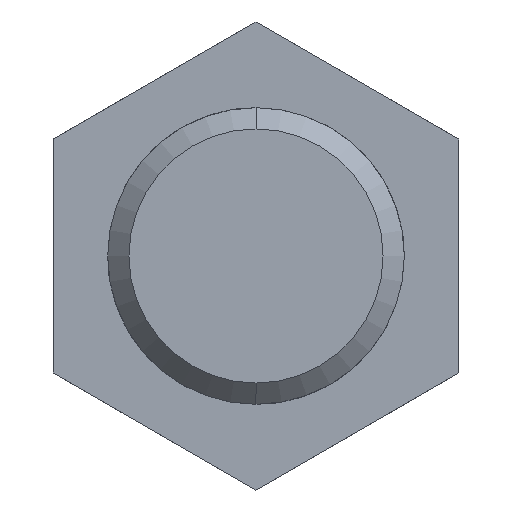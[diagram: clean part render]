
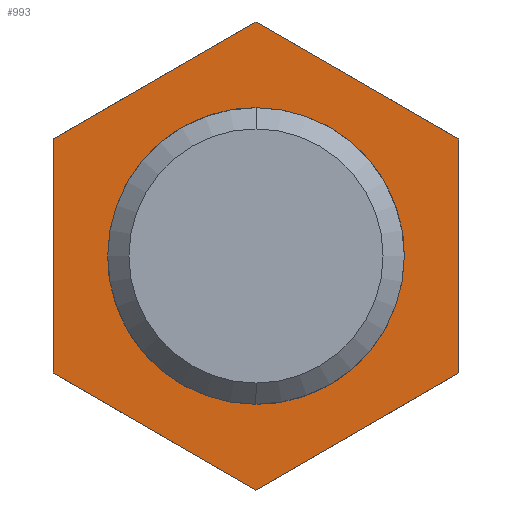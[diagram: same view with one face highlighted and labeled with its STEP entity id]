
A CAD part, front view. The second image highlights one B-rep face of the part: STEP entity #993.
In plain terms, the highlighted planar face has unit normal (0, -1, 0).
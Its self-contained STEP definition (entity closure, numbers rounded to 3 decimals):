
#809=CARTESIAN_POINT('Vertex',(20.5,0.,11.836)) ;
#816=CARTESIAN_POINT('Vertex',(0.,0.,23.671)) ;
#819=CARTESIAN_POINT('Line Origine',(10.25,0.,17.754)) ;
#840=CARTESIAN_POINT('Vertex',(20.5,0.,-11.836)) ;
#843=CARTESIAN_POINT('Line Origine',(20.5,0.,0.)) ;
#865=CARTESIAN_POINT('Vertex',(0.,0.,-23.671)) ;
#868=CARTESIAN_POINT('Line Origine',(10.25,0.,-17.754)) ;
#889=CARTESIAN_POINT('Vertex',(-20.5,0.,-11.836)) ;
#892=CARTESIAN_POINT('Line Origine',(-10.25,0.,-17.754)) ;
#913=CARTESIAN_POINT('Vertex',(-20.5,0.,11.836)) ;
#916=CARTESIAN_POINT('Line Origine',(-20.5,0.,0.)) ;
#934=CARTESIAN_POINT('Line Origine',(-10.25,0.,17.754)) ;
#946=CARTESIAN_POINT('Axis2P3D Location',(0.,0.,0.)) ;
#959=CARTESIAN_POINT('Axis2P3D Location',(0.,0.,0.)) ;
#963=CARTESIAN_POINT('Vertex',(0.,0.,-14.5)) ;
#965=CARTESIAN_POINT('Vertex',(14.5,0.,0.)) ;
#968=CARTESIAN_POINT('Axis2P3D Location',(0.,0.,0.)) ;
#972=CARTESIAN_POINT('Vertex',(-14.5,0.,0.)) ;
#975=CARTESIAN_POINT('Axis2P3D Location',(0.,0.,0.)) ;
#979=CARTESIAN_POINT('Vertex',(0.,0.,14.5)) ;
#982=CARTESIAN_POINT('Axis2P3D Location',(0.,0.,0.)) ;
#820=DIRECTION('Vector Direction',(0.866,0.,-0.5)) ;
#844=DIRECTION('Vector Direction',(0.,0.,-1.)) ;
#869=DIRECTION('Vector Direction',(-0.866,0.,-0.5)) ;
#893=DIRECTION('Vector Direction',(-0.866,0.,0.5)) ;
#917=DIRECTION('Vector Direction',(0.,0.,1.)) ;
#935=DIRECTION('Vector Direction',(0.866,0.,0.5)) ;
#947=DIRECTION('Axis2P3D Direction',(0.,1.,0.)) ;
#948=DIRECTION('Axis2P3D XDirection',(0.,-0.,1.)) ;
#960=DIRECTION('Axis2P3D Direction',(0.,1.,0.)) ;
#969=DIRECTION('Axis2P3D Direction',(0.,1.,0.)) ;
#976=DIRECTION('Axis2P3D Direction',(0.,1.,0.)) ;
#983=DIRECTION('Axis2P3D Direction',(0.,1.,0.)) ;
#949=AXIS2_PLACEMENT_3D('Plane Axis2P3D',#946,#947,#948) ;
#961=AXIS2_PLACEMENT_3D('Circle Axis2P3D',#959,#960,$) ;
#970=AXIS2_PLACEMENT_3D('Circle Axis2P3D',#968,#969,$) ;
#977=AXIS2_PLACEMENT_3D('Circle Axis2P3D',#975,#976,$) ;
#984=AXIS2_PLACEMENT_3D('Circle Axis2P3D',#982,#983,$) ;
#952=ORIENTED_EDGE('',*,*,#920,.F.) ;
#953=ORIENTED_EDGE('',*,*,#896,.F.) ;
#954=ORIENTED_EDGE('',*,*,#872,.F.) ;
#955=ORIENTED_EDGE('',*,*,#847,.F.) ;
#956=ORIENTED_EDGE('',*,*,#823,.F.) ;
#957=ORIENTED_EDGE('',*,*,#938,.F.) ;
#988=ORIENTED_EDGE('',*,*,#967,.F.) ;
#989=ORIENTED_EDGE('',*,*,#974,.F.) ;
#990=ORIENTED_EDGE('',*,*,#981,.F.) ;
#991=ORIENTED_EDGE('',*,*,#986,.F.) ;
#992=FACE_BOUND('',#987,.T.) ;
#821=VECTOR('Line Direction',#820,1.) ;
#845=VECTOR('Line Direction',#844,1.) ;
#870=VECTOR('Line Direction',#869,1.) ;
#894=VECTOR('Line Direction',#893,1.) ;
#918=VECTOR('Line Direction',#917,1.) ;
#936=VECTOR('Line Direction',#935,1.) ;
#993=ADVANCED_FACE('395P-02-032-030',(#958,#992),#950,.F.) ;
#962=CIRCLE('generated circle',#961,14.5) ;
#971=CIRCLE('generated circle',#970,14.5) ;
#978=CIRCLE('generated circle',#977,14.5) ;
#985=CIRCLE('generated circle',#984,14.5) ;
#823=EDGE_CURVE('',#817,#810,#822,.T.) ;
#847=EDGE_CURVE('',#810,#841,#846,.T.) ;
#872=EDGE_CURVE('',#841,#866,#871,.T.) ;
#896=EDGE_CURVE('',#866,#890,#895,.T.) ;
#920=EDGE_CURVE('',#890,#914,#919,.T.) ;
#938=EDGE_CURVE('',#914,#817,#937,.T.) ;
#967=EDGE_CURVE('',#964,#966,#962,.F.) ;
#974=EDGE_CURVE('',#973,#964,#971,.F.) ;
#981=EDGE_CURVE('',#980,#973,#978,.F.) ;
#986=EDGE_CURVE('',#966,#980,#985,.F.) ;
#951=EDGE_LOOP('',(#952,#953,#954,#955,#956,#957)) ;
#987=EDGE_LOOP('',(#988,#989,#990,#991)) ;
#958=FACE_OUTER_BOUND('',#951,.T.) ;
#822=LINE('Line',#819,#821) ;
#846=LINE('Line',#843,#845) ;
#871=LINE('Line',#868,#870) ;
#895=LINE('Line',#892,#894) ;
#919=LINE('Line',#916,#918) ;
#937=LINE('Line',#934,#936) ;
#950=PLANE('Plane',#949) ;
#810=VERTEX_POINT('',#809) ;
#817=VERTEX_POINT('',#816) ;
#841=VERTEX_POINT('',#840) ;
#866=VERTEX_POINT('',#865) ;
#890=VERTEX_POINT('',#889) ;
#914=VERTEX_POINT('',#913) ;
#964=VERTEX_POINT('',#963) ;
#966=VERTEX_POINT('',#965) ;
#973=VERTEX_POINT('',#972) ;
#980=VERTEX_POINT('',#979) ;
